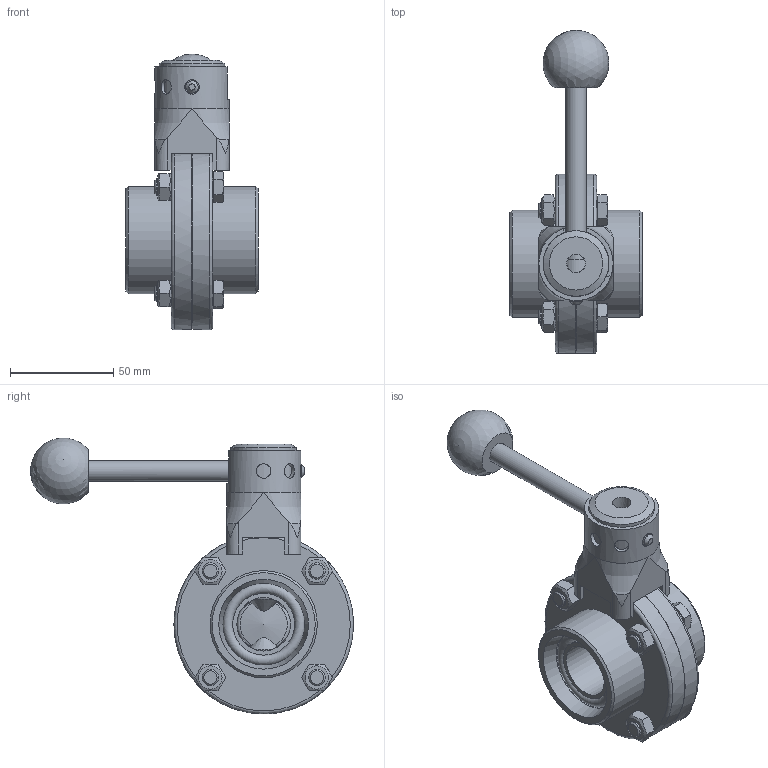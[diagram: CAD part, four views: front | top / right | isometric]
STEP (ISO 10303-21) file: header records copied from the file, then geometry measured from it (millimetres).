
FILE_DESCRIPTION((''),'2;1');
FILE_NAME('K:\2013 konstrukce\4xxxx\43030-KLAPKA PŘÍMÁ G-G\43030-025\43030-025.stp','2019-12-09T14:19:48',('konstrukce'),(''),'Autodesk Inventor 2010','Autodesk Inventor 2010','');
FILE_SCHEMA(('AUTOMOTIVE_DESIGN { 1 0 10303 214 1 1 1 1 }'));
Length unit declared in the file: millimetre
Products named in the file (13): 43030-025; 4382-025-NEW-TW-Přírubá klapka-závitová; ovladani 25-65; 43483-025-065 Plášť ovládání malý-Handle cover small; KOULA-25-65; 43481-025-065-9,5 Střed ovládání malý-Handle pivot small; 43482-025-032; 43482-025-32; 20040-025-Těsnění; 4328-025-Těsnění pro klapku; 4329-025-Srdca klapky; DIN 933 - nahrazený DIN EN 24017 M8  x 28; DIN 934 - nahrazený DIN EN 24032/28673/28674 M8
Assembly tree (20 placements, depth 3):
  43030-025
    4382-025-NEW-TW-Přírubá klapka-závitová  x2
    ovladani 25-65
      43483-025-065 Plášť ovládání malý-Handle cover small
      KOULA-25-65
      43481-025-065-9,5 Střed ovládání malý-Handle pivot small
      43482-025-032
      43482-025-32
    20040-025-Těsnění  x2
    4328-025-Těsnění pro klapku
    4329-025-Srdca klapky
    DIN 933 - nahrazený DIN EN 24017 M8  x 28  x4
    DIN 934 - nahrazený DIN EN 24032/28673/28674 M8  x4
Bounding box: 64 x 156.47 x 133.77 mm (x, y, z)
Volume: 233671.9 mm3; surface area: 89201.8 mm2
Topology: 19 solids, 19 shells, 341 faces, 808 edges, 505 vertices
Faces by surface type: plane 159, cone 75, cylinder 74, bspline 20, torus 12, sphere 1
Full cylindrical faces by diameter (mm): 6 x1, 7 x1, 7.323 x4, 8 x4, 8.5 x11, 10 x6, 10.2 x1, 11.4 x4, 14 x2, 14.1 x1, 26 x2, 30 x4, 31.8 x1, 36 x1, 39.8 x2, 40 x3, 40.1 x2, 52 x2, 87 x2
Entity records: 7167 total; most frequent: CARTESIAN_POINT 2321, DIRECTION 922, ORIENTED_EDGE 832, EDGE_CURVE 416, AXIS2_PLACEMENT_3D 376, EDGE_LOOP 324, VERTEX_POINT 302, FACE_OUTER_BOUND 209
